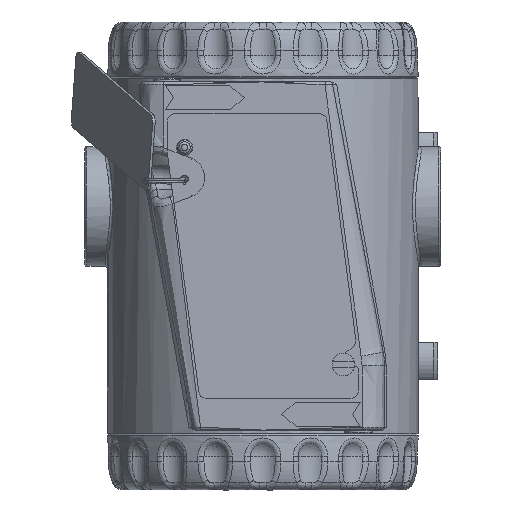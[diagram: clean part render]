
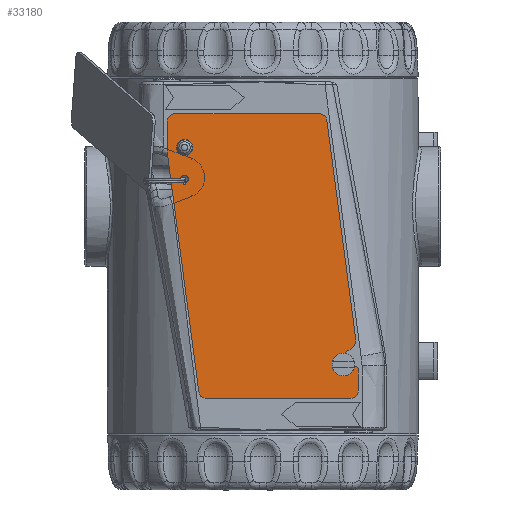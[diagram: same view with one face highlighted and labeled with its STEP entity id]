
A CAD part, left-side view. The second image highlights one B-rep face of the part: STEP entity #33180.
In plain terms, the highlighted planar face has unit normal (-1, 0, 0) as drawn and (0, 0, 1) by its records, which use the part's own axes.
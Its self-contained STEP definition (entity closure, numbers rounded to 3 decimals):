
#1066=PLANE('',#37158);
#1582=FACE_BOUND('',#9023,.T.);
#1583=FACE_BOUND('',#9024,.T.);
#2912=LINE('',#73071,#4434);
#2916=LINE('',#73083,#4438);
#2920=LINE('',#73095,#4442);
#2924=LINE('',#73107,#4446);
#2928=LINE('',#73119,#4450);
#2931=LINE('',#73125,#4453);
#2935=LINE('',#73137,#4457);
#2939=LINE('',#73148,#4461);
#4434=VECTOR('',#45337,10.);
#4438=VECTOR('',#45349,10.);
#4442=VECTOR('',#45361,10.);
#4446=VECTOR('',#45373,10.);
#4450=VECTOR('',#45385,10.);
#4453=VECTOR('',#45390,10.);
#4457=VECTOR('',#45402,10.);
#4461=VECTOR('',#45414,10.);
#6875=FACE_OUTER_BOUND('',#9022,.T.);
#9022=EDGE_LOOP('',(#28590,#28591,#28592,#28593,#28594,#28595,#28596,#28597,
#28598,#28599,#28600,#28601,#28602,#28603,#28604));
#9023=EDGE_LOOP('',(#28605));
#9024=EDGE_LOOP('',(#28606));
#11238=CIRCLE('',#37124,1.35);
#11240=CIRCLE('',#37127,1.);
#11241=CIRCLE('',#37129,2.);
#11243=CIRCLE('',#37133,2.);
#11245=CIRCLE('',#37137,1.);
#11247=CIRCLE('',#37141,2.);
#11249=CIRCLE('',#37145,2.);
#11251=CIRCLE('',#37150,2.);
#11253=CIRCLE('',#37154,2.);
#15196=VERTEX_POINT('',#73051);
#15198=VERTEX_POINT('',#73057);
#15199=VERTEX_POINT('',#73061);
#15200=VERTEX_POINT('',#73062);
#15203=VERTEX_POINT('',#73070);
#15205=VERTEX_POINT('',#73076);
#15207=VERTEX_POINT('',#73082);
#15209=VERTEX_POINT('',#73088);
#15211=VERTEX_POINT('',#73094);
#15213=VERTEX_POINT('',#73100);
#15215=VERTEX_POINT('',#73106);
#15217=VERTEX_POINT('',#73112);
#15219=VERTEX_POINT('',#73118);
#15221=VERTEX_POINT('',#73124);
#15223=VERTEX_POINT('',#73130);
#15225=VERTEX_POINT('',#73136);
#15227=VERTEX_POINT('',#73142);
#19730=EDGE_CURVE('',#15196,#15196,#11238,.T.);
#19733=EDGE_CURVE('',#15198,#15198,#11240,.T.);
#19734=EDGE_CURVE('',#15199,#15200,#11241,.T.);
#19738=EDGE_CURVE('',#15200,#15203,#2912,.T.);
#19741=EDGE_CURVE('',#15203,#15205,#11243,.T.);
#19744=EDGE_CURVE('',#15205,#15207,#2916,.T.);
#19747=EDGE_CURVE('',#15207,#15209,#11245,.T.);
#19750=EDGE_CURVE('',#15209,#15211,#2920,.T.);
#19753=EDGE_CURVE('',#15211,#15213,#11247,.T.);
#19756=EDGE_CURVE('',#15213,#15215,#2924,.T.);
#19759=EDGE_CURVE('',#15215,#15217,#11249,.T.);
#19762=EDGE_CURVE('',#15217,#15219,#2928,.T.);
#19765=EDGE_CURVE('',#15219,#15221,#2931,.T.);
#19768=EDGE_CURVE('',#15221,#15223,#11251,.T.);
#19771=EDGE_CURVE('',#15223,#15225,#2935,.T.);
#19774=EDGE_CURVE('',#15225,#15227,#11253,.T.);
#19777=EDGE_CURVE('',#15227,#15199,#2939,.T.);
#28590=ORIENTED_EDGE('',*,*,#19734,.F.);
#28591=ORIENTED_EDGE('',*,*,#19777,.F.);
#28592=ORIENTED_EDGE('',*,*,#19774,.F.);
#28593=ORIENTED_EDGE('',*,*,#19771,.F.);
#28594=ORIENTED_EDGE('',*,*,#19768,.F.);
#28595=ORIENTED_EDGE('',*,*,#19765,.F.);
#28596=ORIENTED_EDGE('',*,*,#19762,.F.);
#28597=ORIENTED_EDGE('',*,*,#19759,.F.);
#28598=ORIENTED_EDGE('',*,*,#19756,.F.);
#28599=ORIENTED_EDGE('',*,*,#19753,.F.);
#28600=ORIENTED_EDGE('',*,*,#19750,.F.);
#28601=ORIENTED_EDGE('',*,*,#19747,.F.);
#28602=ORIENTED_EDGE('',*,*,#19744,.F.);
#28603=ORIENTED_EDGE('',*,*,#19741,.F.);
#28604=ORIENTED_EDGE('',*,*,#19738,.F.);
#28605=ORIENTED_EDGE('',*,*,#19730,.T.);
#28606=ORIENTED_EDGE('',*,*,#19733,.T.);
#33180=ADVANCED_FACE('',(#6875,#1582,#1583),#1066,.T.);
#37124=AXIS2_PLACEMENT_3D('',#73053,#45318,#45319);
#37127=AXIS2_PLACEMENT_3D('',#73059,#45325,#45326);
#37129=AXIS2_PLACEMENT_3D('',#73063,#45329,#45330);
#37133=AXIS2_PLACEMENT_3D('',#73077,#45342,#45343);
#37137=AXIS2_PLACEMENT_3D('',#73089,#45354,#45355);
#37141=AXIS2_PLACEMENT_3D('',#73101,#45366,#45367);
#37145=AXIS2_PLACEMENT_3D('',#73113,#45378,#45379);
#37150=AXIS2_PLACEMENT_3D('',#73131,#45395,#45396);
#37154=AXIS2_PLACEMENT_3D('',#73143,#45407,#45408);
#37158=AXIS2_PLACEMENT_3D('',#73151,#45418,#45419);
#45318=DIRECTION('center_axis',(0.,0.,-1.));
#45319=DIRECTION('ref_axis',(-1.,0.,0.));
#45325=DIRECTION('center_axis',(0.,0.,-1.));
#45326=DIRECTION('ref_axis',(-1.,0.,0.));
#45329=DIRECTION('center_axis',(0.,0.,-1.));
#45330=DIRECTION('ref_axis',(0.766,0.643,0.));
#45337=DIRECTION('',(0.643,-0.766,0.));
#45342=DIRECTION('center_axis',(0.,0.,1.));
#45343=DIRECTION('ref_axis',(0.766,0.643,0.));
#45349=DIRECTION('',(-0.643,0.766,0.));
#45354=DIRECTION('center_axis',(0.,0.,-1.));
#45355=DIRECTION('ref_axis',(0.,1.,0.));
#45361=DIRECTION('',(1.,0.,0.));
#45366=DIRECTION('center_axis',(0.,0.,-1.));
#45367=DIRECTION('ref_axis',(1.,0.,0.));
#45373=DIRECTION('',(0.,-1.,0.));
#45378=DIRECTION('center_axis',(0.,0.,-1.));
#45379=DIRECTION('ref_axis',(0.131,-0.991,0.));
#45385=DIRECTION('',(-0.991,-0.131,0.));
#45390=DIRECTION('',(-1.,0.,0.));
#45395=DIRECTION('center_axis',(0.,0.,-1.));
#45396=DIRECTION('ref_axis',(-1.,0.,0.));
#45402=DIRECTION('',(0.,1.,0.));
#45407=DIRECTION('center_axis',(0.,0.,-1.));
#45408=DIRECTION('ref_axis',(-0.131,0.991,0.));
#45414=DIRECTION('',(0.991,0.131,0.));
#45418=DIRECTION('center_axis',(0.,0.,1.));
#45419=DIRECTION('ref_axis',(1.,0.,0.));
#73051=CARTESIAN_POINT('',(10.35,4.599,0.7));
#73053=CARTESIAN_POINT('Origin',(9.,4.599,0.7));
#73057=CARTESIAN_POINT('',(18.4,4.599,0.7));
#73059=CARTESIAN_POINT('Origin',(17.4,4.599,0.7));
#73061=CARTESIAN_POINT('',(60.389,50.327,0.7));
#73062=CARTESIAN_POINT('',(62.182,49.63,0.7));
#73063=CARTESIAN_POINT('Origin',(60.65,48.344,0.7));
#73070=CARTESIAN_POINT('',(65.468,45.714,0.7));
#73071=CARTESIAN_POINT('',(65.468,45.714,0.7));
#73076=CARTESIAN_POINT('',(68.532,48.286,0.7));
#73077=CARTESIAN_POINT('Origin',(67.,47.,0.7));
#73082=CARTESIAN_POINT('',(67.633,49.357,0.7));
#73083=CARTESIAN_POINT('',(67.633,49.357,0.7));
#73088=CARTESIAN_POINT('',(68.399,51.,0.7));
#73089=CARTESIAN_POINT('Origin',(68.399,50.,0.7));
#73094=CARTESIAN_POINT('',(74.,51.,0.7));
#73095=CARTESIAN_POINT('',(74.,51.,0.7));
#73100=CARTESIAN_POINT('',(76.,49.,0.7));
#73101=CARTESIAN_POINT('Origin',(74.,49.,0.7));
#73106=CARTESIAN_POINT('',(76.,10.377,0.7));
#73107=CARTESIAN_POINT('',(76.,10.377,0.7));
#73112=CARTESIAN_POINT('',(74.261,8.394,0.7));
#73113=CARTESIAN_POINT('Origin',(74.,10.377,0.7));
#73118=CARTESIAN_POINT('',(10.5,0.,0.7));
#73119=CARTESIAN_POINT('',(10.5,0.,0.7));
#73124=CARTESIAN_POINT('',(2.,0.,0.7));
#73125=CARTESIAN_POINT('',(2.,0.,0.7));
#73130=CARTESIAN_POINT('',(0.,2.,0.7));
#73131=CARTESIAN_POINT('Origin',(2.,2.,0.7));
#73136=CARTESIAN_POINT('',(0.,40.623,0.7));
#73137=CARTESIAN_POINT('',(0.,40.623,0.7));
#73142=CARTESIAN_POINT('',(1.739,42.606,0.7));
#73143=CARTESIAN_POINT('Origin',(2.,40.623,0.7));
#73148=CARTESIAN_POINT('',(60.389,50.327,0.7));
#73151=CARTESIAN_POINT('Origin',(39.077,26.228,0.7));
